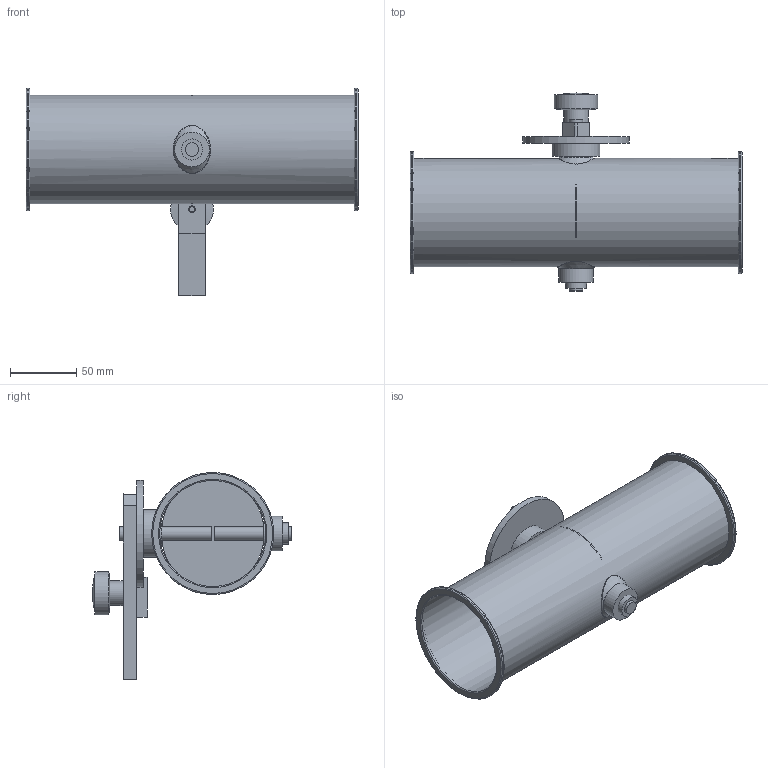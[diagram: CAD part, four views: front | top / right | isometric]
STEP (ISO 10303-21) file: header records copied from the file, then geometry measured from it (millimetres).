
FILE_DESCRIPTION(/* description */ (''),/* implementation_level */ '2;1');
FILE_NAME(/* name */ '',/* time_stamp */ '2023-03-10T15:09:54+01:00',/* author */ (''),/* organization */ (''),/* preprocessor_version */ 'ST-DEVELOPER v11',/* originating_system */ 'SIEMENS UGS NX 6.0',/* authorisation */ '');
FILE_SCHEMA (('CONFIG_CONTROL_DESIGN'));
Length unit declared in the file: millimetre
Products named in the file (1): d.ga8B38arq0
Bounding box: 250 x 149.17 x 156 mm (x, y, z)
Volume: 158544.2 mm3; surface area: 182223 mm2
Topology: 12 solids, 12 shells, 98 faces, 197 edges, 134 vertices
Faces by surface type: plane 46, cylinder 32, torus 10, cone 4, bspline 4, sphere 2
Full cylindrical faces by diameter (mm): 4.2 x1, 4.4 x2, 5 x1, 6 x1, 10 x5, 15 x3, 15.85 x2, 16.2 x2, 18.5 x1, 24 x2, 25 x1, 26 x1, 32.5 x1, 36 x1, 80 x2, 81.6 x1, 92 x2
Entity records: 2966 total; most frequent: CARTESIAN_POINT 1071, DIRECTION 388, ORIENTED_EDGE 256, EDGE_LOOP 182, AXIS2_PLACEMENT_3D 173, FACE_BOUND 160, EDGE_CURVE 128, VERTEX_POINT 112
